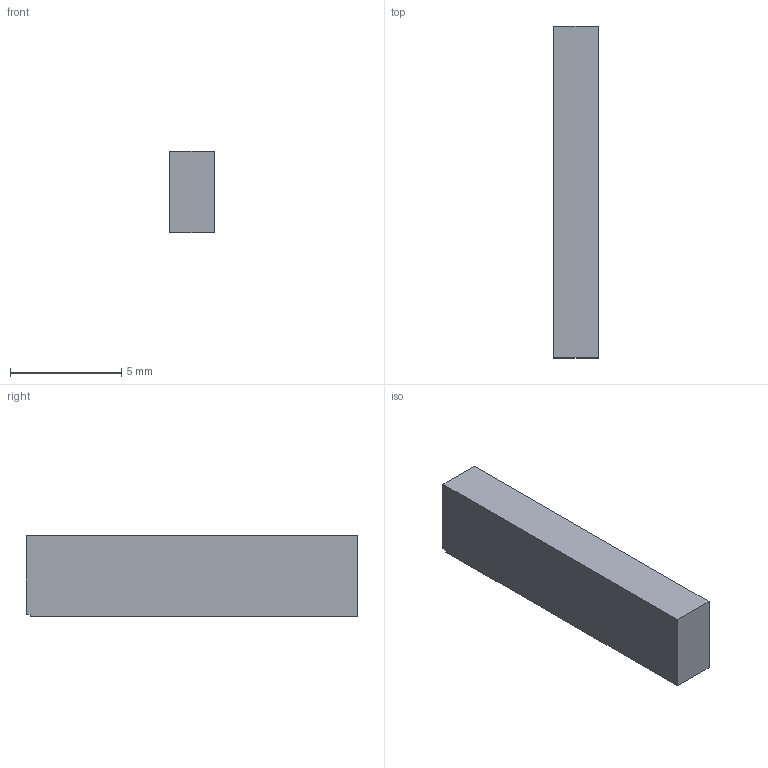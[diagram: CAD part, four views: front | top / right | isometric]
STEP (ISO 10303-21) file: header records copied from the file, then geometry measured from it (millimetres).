
FILE_DESCRIPTION(/* description */ ('STEP AP242 Edition 2','CAx-IF Rec.Pracs.---Representation and Presentation of Product Manufacturing Information (PMI)---4.0---2014-10-13','CAx-IF Rec.Pracs.---3D Tessellated Geometry---0.4---2014-09-14','2;1','CAx-IF Rec.Pracs.---User Defined Attributes---1.5---2016-08-15'),/* implementation_level */ '2;1');
FILE_NAME(/* name */ 'LCD_TFT_1.8_SPI_ST7735 - Part 3',/* time_stamp */ '2026-04-28T02:34:33Z',/* author */ (''),/* organization */ (''),/* preprocessor_version */ 'ST-DEVELOPER v20',/* originating_system */ 'ONSHAPE BY PTC INC, 1.214',/* authorisation */ ' ');
FILE_SCHEMA (('AP242_MANAGED_MODEL_BASED_3D_ENGINEERING_MIM_LF { 1 0 10303 442 3 1 4 }'));
Length unit declared in the file: metre
Products named in the file (1): Part 3
Bounding box: 2 x 14.94 x 3.65 mm (x, y, z)
Volume: 109 mm3; surface area: 183.4 mm2
Topology: 1 solids, 1 shells, 10 faces, 24 edges, 16 vertices
Faces by surface type: plane 10
Entity records: 310 total; most frequent: CARTESIAN_POINT 51, ORIENTED_EDGE 48, DIRECTION 46, EDGE_CURVE 24, LINE 24, VECTOR 24, VERTEX_POINT 16, AXIS2_PLACEMENT_3D 11
